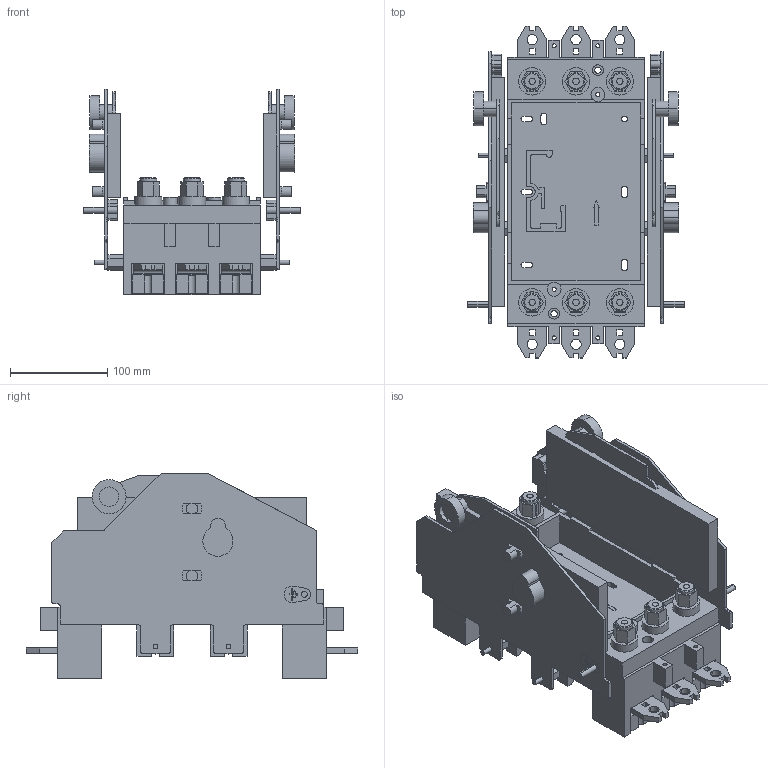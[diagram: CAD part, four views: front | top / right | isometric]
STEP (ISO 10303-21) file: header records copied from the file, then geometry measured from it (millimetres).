
FILE_DESCRIPTION (( 'STEP AP214' ), '1' );
FILE_NAME ('Êîìïëåêò äëÿ âûäâèæíîãî èñïîëíåíèÿ OptiMat D400, D630 âåðòèêàëüíûå âûâîäû.STEP', '2023-04-04T03:40:41', ( '' ), ( '' ), 'SwSTEP 2.0', 'SolidWorks 2018', '' );
FILE_SCHEMA (( 'AUTOMOTIVE_DESIGN' ));
Length unit declared in the file: millimetre
Products named in the file (4): Âòû÷íîå âûäâèæíîå 630_¢ë¤¢¨¦­®¥; Êîìïëåêò äëÿ âûäâèæíîãî èñïîëíåíèÿ OptiMat D400, D630 âåðòèêàëüíûå âûâîäû; ч蜱齁罻; ﾂ鏆鮏
Assembly tree (13 placements, depth 2):
  Êîìïëåêò äëÿ âûäâèæíîãî èñïîëíåíèÿ OptiMat D400, D630 âåðòèêàëüíûå âûâîäû
    Âòû÷íîå âûäâèæíîå 630_¢ë¤¢¨¦­®¥
    ﾂ鏆鮏  x6
    ч蜱齁罻  x6
Bounding box: 222.8 x 341 x 211 mm (x, y, z)
Volume: 2375761.8 mm3; surface area: 539075.3 mm2
Topology: 13 solids, 13 shells, 1019 faces, 2751 edges, 1818 vertices
Faces by surface type: plane 679, cylinder 328, cone 12
Entity records: 26513 total; most frequent: CARTESIAN_POINT 4594, DIRECTION 4539, ORIENTED_EDGE 4502, EDGE_CURVE 2251, LINE 1673, VECTOR 1673, VERTEX_POINT 1488, AXIS2_PLACEMENT_3D 1433
